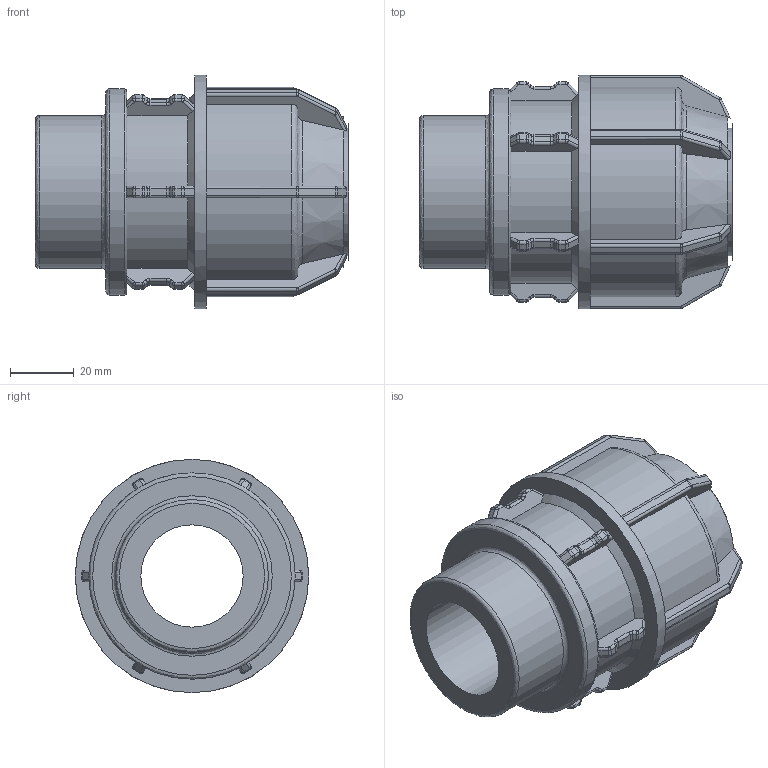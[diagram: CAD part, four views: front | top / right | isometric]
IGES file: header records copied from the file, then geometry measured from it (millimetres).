
Global section: file name: 140200040015.ipt; native system: Autodesk Inventor 2015; preprocessor: unknown; author: KIM; date: 20180409.130938; units: millimetre
Bounding box: 98 x 73 x 73 mm (x, y, z)
Volume: 154593.8 mm3; surface area: 39643 mm2
Topology: 1 solids, 1 shells, 470 faces, 1172 edges, 702 vertices
Faces by surface type: cylinder 171, plane 158, revolution 129, cone 12
Full cylindrical faces by diameter (mm): 47.803 x1, 64.534 x1, 73 x1
